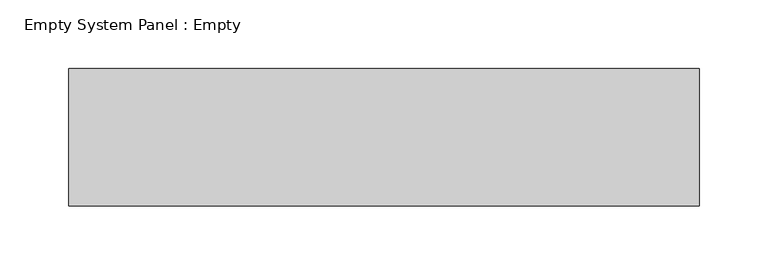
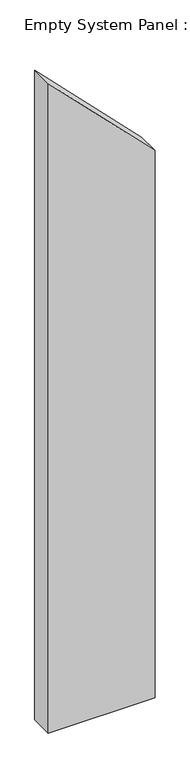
"""IFC4 building model written with IfcOpenShell, lengths in millimetres: plate geometry, Empty System Panel : Empty."""

from ifc_helpers import new_model, si_unit, frame, origin, place, context, project, spatial, polyline, outline, extrude, source, transform, mapped, element, save


def empty_system_panel_empty_8c4cd139(model_context):
    return source(origin(), model_context, "Body", "SweptSolid", [
        extrude(outline(polyline([(0.0, -229.6046705), (0.0, 229.6046705), (2487.3089272, 229.6046705), (2951.6556362, -229.6046705), (0.0, -229.6046705)])), frame((0.0, -50.0, 0.0), z_axis=(0.0, 1.0, 0.0), x_axis=(0.0, 0.0, 1.0)), (0.0, 0.0, 1.0), 100.0),
    ])


if __name__ == "__main__":
    model = new_model("IFC4")
    model_context = context("Model", 3, world=origin())
    ifc_project = project(units=[si_unit("LENGTHUNIT", "METRE", prefix="MILLI")], contexts=[model_context])
    site = spatial("IfcSite", under=ifc_project)
    building = spatial("IfcBuilding", under=site)
    placement = place(None, origin())
    empty_system_panel_empty_shape = empty_system_panel_empty_8c4cd139(model_context)
    element("IfcPlate", 1, ObjectType="Empty System Panel : Empty", at=placement, inside=building, context=model_context, shape_type="MappedRepresentation", body=[
        mapped(empty_system_panel_empty_shape, transform((0.0, 0.0, 0.0), x_axis=(1.0, 0.0, 0.0), y_axis=(0.0, 1.0, 0.0), z_axis=(0.0, 0.0, 1.0))),
    ])
    save(model, "model.ifc")
